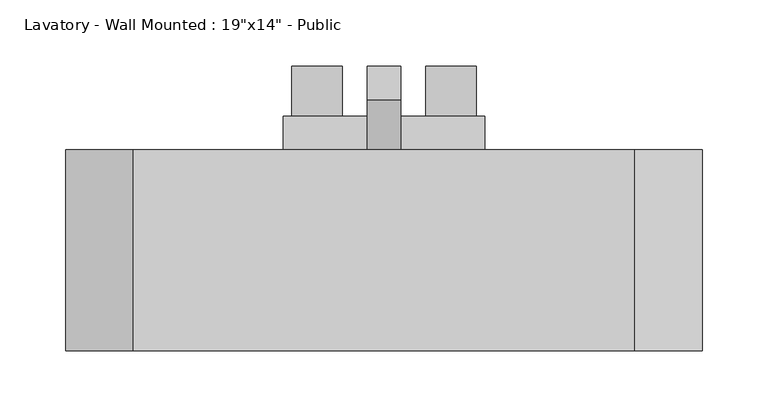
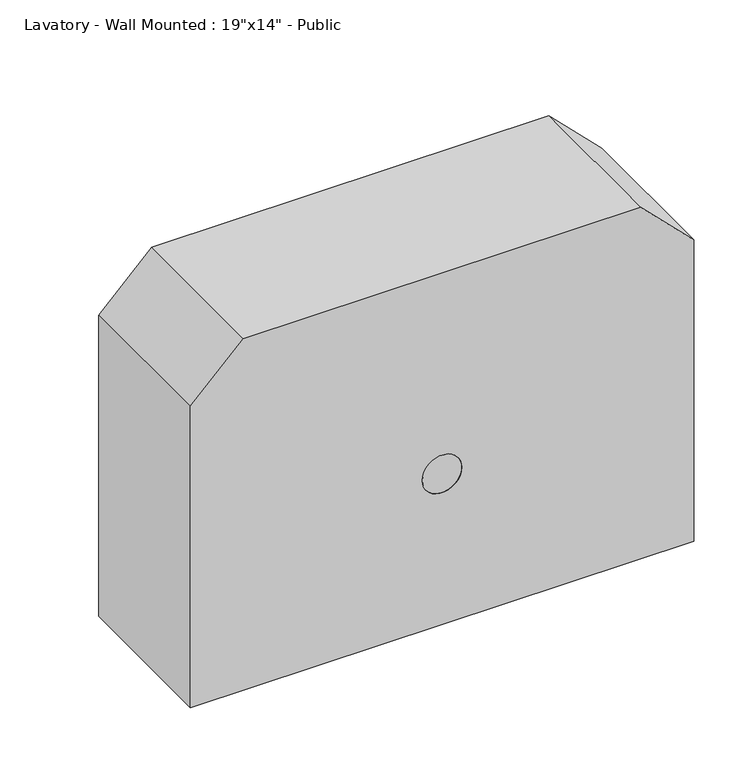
"""IFC4 building model written with IfcOpenShell, lengths in millimetres: flow terminal geometry."""

from ifc_helpers import new_model, si_unit, point, frame, frame_2d, origin, place, context, project, spatial, polyline, circle_curve, trimmed, segment, composite_curve, outline, extrude, source, transform, mapped, element, save
from ifc_brep_helpers import plane_surface, revolved_surface, advanced_brep


def flow_terminal_937b12d4(model_context):
    return source(origin(), model_context, "Body", "SolidModel", [
        advanced_brep(
        [(-241.0, -152.4, 305.2), (-241.0, -152.4, 0.0), (241.0, -152.4, 0.0), (241.0, -152.4, 305.2), (190.2, -152.4, 356.0), (-190.2, -152.4, 356.0), (19.05, -152.4, 152.4), (-19.05, -152.4, 152.4), (-241.0, 0.0, 305.2), (-190.2, 0.0, 356.0), (190.2, 0.0, 356.0), (241.0, 0.0, 305.2), (241.0, 0.0, 0.0), (-241.0, 0.0, 0.0), (169.157951, 0.0, 305.2), (-169.157951, 0.0, 305.2), (-190.2, 0.0, 284.157951), (-190.2, 0.0, 114.3), (190.2, 0.0, 114.3), (190.2, 0.0, 284.157951), (19.05, -127.0, 152.4), (-19.05, -127.0, 152.4), (169.157951, -127.0, 305.2), (190.2, -127.0, 284.157951), (190.2, -127.0, 114.3), (-190.2, -127.0, 114.3), (-190.2, -127.0, 284.157951), (-169.157951, -127.0, 305.2)],
        [
            (0, 1),
            (1, 2),
            (2, 3),
            (3, 4),
            (4, 5),
            (5, 0),
            (6, 7, circle_curve(frame((0.0, -152.4, 152.4), z_axis=(0.0, 1.0, 0.0), x_axis=(1.0, 0.0, 0.0)), 19.05)),
            (7, 6, circle_curve(frame((0.0, -152.4, 152.4), z_axis=(0.0, 1.0, 0.0), x_axis=(1.0, 0.0, 0.0)), 19.05)),
            (8, 9),
            (9, 10),
            (10, 11),
            (11, 12),
            (12, 13),
            (13, 8),
            (14, 15),
            (15, 16),
            (16, 17),
            (17, 18),
            (18, 19),
            (19, 14),
            (0, 8),
            (13, 1),
            (12, 2),
            (11, 3),
            (10, 4),
            (9, 5),
            (6, 20),
            (20, 21, circle_curve(frame((0.0, -127.0, 152.4), z_axis=(0.0, 1.0, 0.0), x_axis=(1.0, 0.0, 0.0)), 19.05)),
            (21, 7),
            (21, 20, circle_curve(frame((0.0, -127.0, 152.4), z_axis=(0.0, 1.0, 0.0), x_axis=(1.0, 0.0, 0.0)), 19.05)),
            (22, 23),
            (23, 24),
            (24, 25),
            (25, 26),
            (26, 27),
            (27, 22),
            (27, 15),
            (14, 22),
            (26, 16),
            (25, 17),
            (24, 18),
            (23, 19),
        ],
        [
            plane_surface(frame((-241.0, -152.4, 305.2), z_axis=(0.0, -1.0, 0.0), x_axis=(0.0, 0.0, -1.0))),
            plane_surface(frame((-241.0, 0.0, 305.2), z_axis=(0.0, 1.0, 0.0), x_axis=(0.0, 0.0, 1.0))),
            plane_surface(frame((-241.0, -152.4, 305.2), z_axis=(-1.0, 0.0, 0.0), x_axis=(0.0, 1.0, 0.0))),
            plane_surface(frame((-241.0, -152.4, 0.0), z_axis=(0.0, 0.0, -1.0), x_axis=(0.0, 1.0, 0.0))),
            plane_surface(frame((241.0, -152.4, 0.0), z_axis=(1.0, 0.0, 0.0), x_axis=(0.0, 1.0, 0.0))),
            plane_surface(frame((241.0, -152.4, 305.2), z_axis=(0.7071067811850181, 0.0, 0.7071067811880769), x_axis=(0.0, 1.0, 0.0))),
            plane_surface(frame((190.2, -152.4, 356.0), z_axis=(0.0, 0.0, 1.0), x_axis=(0.0, 1.0, 0.0))),
            plane_surface(frame((-190.2, -152.4, 356.0), z_axis=(-0.7071067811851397, 0.0, 0.7071067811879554), x_axis=(0.0, 1.0, 0.0))),
            revolved_surface(polyline([(19.05, -152.4, 152.4), (19.05, -127.0, 152.4)]), (0.0, -127.0, 152.4), (0.0, -1.0, 0.0)),
            plane_surface(frame((-169.157951, -127.0, 305.2), z_axis=(0.0, 1.0, 0.0), x_axis=(-1.0, 0.0, 0.0))),
            plane_surface(frame((169.157951, -127.0, 305.2), z_axis=(0.0, 0.0, -1.0), x_axis=(0.0, 1.0, 0.0))),
            plane_surface(frame((-169.157951, -127.0, 305.2), z_axis=(0.7071067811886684, 0.0, -0.7071067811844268), x_axis=(0.0, 1.0, 0.0))),
            plane_surface(frame((-190.2, -127.0, 284.157951), z_axis=(1.0, 0.0, 0.0), x_axis=(0.0, 1.0, 0.0))),
            plane_surface(frame((-190.2, -127.0, 114.3), z_axis=(0.0, 0.0, 1.0), x_axis=(0.0, 1.0, 0.0))),
            plane_surface(frame((190.2, -127.0, 114.3), z_axis=(-1.0, 0.0, 0.0), x_axis=(0.0, 1.0, 0.0))),
            plane_surface(frame((190.2, -127.0, 284.157951), z_axis=(-0.7071067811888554, 0.0, -0.7071067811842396), x_axis=(0.0, 1.0, 0.0))),
        ],
        [
            (0, [[1, 2, 3, 4, 5, 6], [7, 8]]),
            (1, [[9, 10, 11, 12, 13, 14], [15, 16, 17, 18, 19, 20]]),
            (2, [[-1, 21, -14, 22]]),
            (3, [[-2, -22, -13, 23]]),
            (4, [[-3, -23, -12, 24]]),
            (5, [[-4, -24, -11, 25]]),
            (6, [[-5, -25, -10, 26]]),
            (7, [[-6, -26, -9, -21]]),
            (8, [[27, 28, 29, -7]]),
            (8, [[-27, -8, -29, 30]]),
            (9, [[31, 32, 33, 34, 35, 36], [-28, -30]]),
            (10, [[-36, 37, -15, 38]]),
            (11, [[-35, 39, -16, -37]]),
            (12, [[-34, 40, -17, -39]]),
            (13, [[-33, 41, -18, -40]]),
            (14, [[-32, 42, -19, -41]]),
            (15, [[-31, -38, -20, -42]]),
        ],
    ),
        extrude(outline(composite_curve([segment(trimmed(circle_curve(frame_2d((152.4, 0.0)), 19.05), [point((152.4, -19.05))], [point((152.4, 19.05))], False, "CARTESIAN"), True, "CONTINUOUS"), segment(trimmed(circle_curve(frame_2d((152.4, 0.0)), 19.05), [point((152.4, 19.05))], [point((152.4, -19.05))], False, "CARTESIAN"), True, "CONTINUOUS")], self_intersect=False)), frame((0.0, -152.4, 0.0), z_axis=(0.0, 1.0, 0.0), x_axis=(0.0, 0.0, 1.0)), (0.0, 0.0, 1.0), 25.4),
        extrude(outline(polyline([(76.2, 0.0), (-76.2, 0.0), (-76.2, 25.4), (76.2, 25.4), (76.2, 0.0)])), frame((0.0, 0.0, 28.575), z_axis=(0.0, 0.0, 1.0), x_axis=(1.0, 0.0, 0.0)), (0.0, 0.0, 1.0), 50.8),
        extrude(outline(composite_curve([segment(trimmed(circle_curve(frame_2d((53.975, 50.8)), 19.05), [point((53.975, 31.75))], [point((53.975, 69.85))], False, "CARTESIAN"), True, "CONTINUOUS"), segment(trimmed(circle_curve(frame_2d((53.975, 50.8)), 19.05), [point((53.975, 69.85))], [point((53.975, 31.75))], False, "CARTESIAN"), True, "CONTINUOUS")], self_intersect=False)), frame((0.0, 25.4, 0.0), z_axis=(0.0, 1.0, 0.0), x_axis=(0.0, 0.0, 1.0)), (0.0, 0.0, 1.0), 38.1),
        extrude(outline(polyline([(25.4, 79.375), (0.0, 79.375), (38.1, 167.363181), (63.5, 167.363181), (25.4, 79.375)])), frame((-12.7, 0.0, 0.0), z_axis=(1.0, 0.0, 0.0), x_axis=(0.0, 1.0, 0.0)), (0.0, 0.0, 1.0), 25.4),
        extrude(outline(composite_curve([segment(trimmed(circle_curve(frame_2d((53.975, -50.8)), 19.05), [point((53.975, -69.85))], [point((53.975, -31.75))], False, "CARTESIAN"), True, "CONTINUOUS"), segment(trimmed(circle_curve(frame_2d((53.975, -50.8)), 19.05), [point((53.975, -31.75))], [point((53.975, -69.85))], False, "CARTESIAN"), True, "CONTINUOUS")], self_intersect=False)), frame((0.0, 25.4, 0.0), z_axis=(0.0, 1.0, 0.0), x_axis=(0.0, 0.0, 1.0)), (0.0, 0.0, 1.0), 38.1),
    ])


if __name__ == "__main__":
    model = new_model("IFC4")
    model_context = context("Model", 3, world=origin())
    ifc_project = project(units=[si_unit("LENGTHUNIT", "METRE", prefix="MILLI")], contexts=[model_context])
    site = spatial("IfcSite", under=ifc_project)
    building = spatial("IfcBuilding", under=site)
    placement = place(None, origin())
    flow_terminal_shape = flow_terminal_937b12d4(model_context)
    element("IfcFlowTerminal", 1, ObjectType="Lavatory - Wall Mounted : 19\"x14\" - Public", at=placement, inside=building, context=model_context, shape_type="MappedRepresentation", body=[
        mapped(flow_terminal_shape, transform((0.0, 0.0, 0.0), x_axis=(1.0, 0.0, 0.0), y_axis=(0.0, 1.0, 0.0), z_axis=(0.0, 0.0, 1.0))),
    ])
    save(model, "model.ifc")
